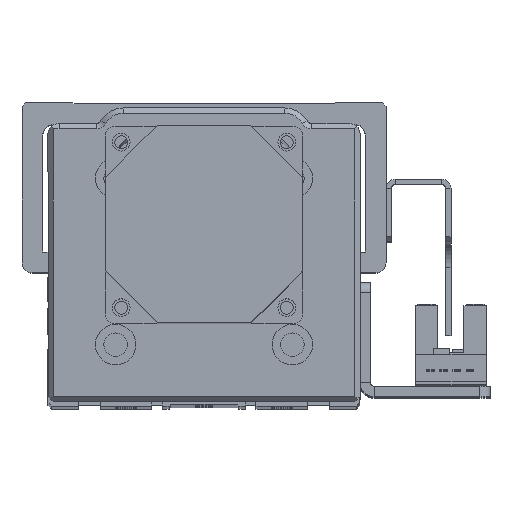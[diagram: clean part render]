
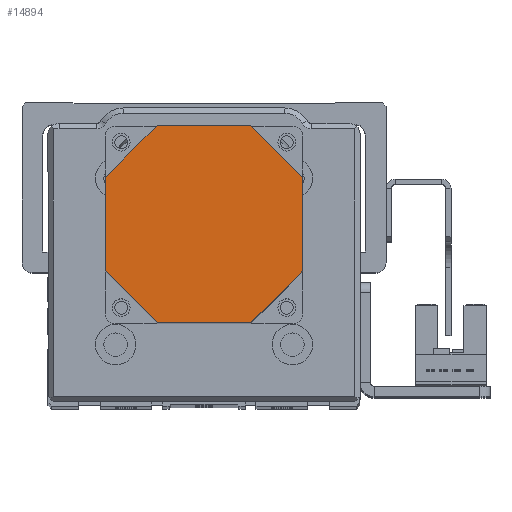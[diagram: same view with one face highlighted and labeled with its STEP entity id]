
A CAD part, top view. The second image highlights one B-rep face of the part: STEP entity #14894.
In plain terms, the highlighted planar face has unit normal (0, 0, 1) as drawn and (0, 0, -1) by its records, which use the part's own axes.
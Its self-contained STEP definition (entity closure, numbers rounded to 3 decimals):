
#5230 = EDGE_CURVE ( 'NONE', #24335, #24328, #7183, .T. ) ;
#5240 = EDGE_CURVE ( 'NONE', #24346, #24302, #7187, .T. ) ;
#5266 = EDGE_CURVE ( 'NONE', #24298, #24313, #7244, .T. ) ;
#5284 = EDGE_CURVE ( 'NONE', #24334, #24335, #7305, .T. ) ;
#5289 = EDGE_CURVE ( 'NONE', #24328, #24346, #7290, .T. ) ;
#5308 = EDGE_CURVE ( 'NONE', #24302, #24298, #7298, .T. ) ;
#5324 = EDGE_CURVE ( 'NONE', #24351, #24334, #7357, .T. ) ;
#5329 = EDGE_CURVE ( 'NONE', #24313, #24351, #7329, .T. ) ;
#7134 = VECTOR ( 'NONE', #11418, 1000. ) ;
#7183 = LINE ( 'NONE', #11443, #7134 ) ;
#7187 = LINE ( 'NONE', #10600, #7240 ) ;
#7240 = VECTOR ( 'NONE', #10596, 1000. ) ;
#7244 = LINE ( 'NONE', #10649, #7246 ) ;
#7246 = VECTOR ( 'NONE', #10674, 1000. ) ;
#7258 = VECTOR ( 'NONE', #10729, 1000. ) ;
#7261 = VECTOR ( 'NONE', #10702, 1000. ) ;
#7275 = VECTOR ( 'NONE', #10754, 1000. ) ;
#7290 = LINE ( 'NONE', #10713, #7261 ) ;
#7298 = LINE ( 'NONE', #10760, #7275 ) ;
#7305 = LINE ( 'NONE', #10720, #7258 ) ;
#7329 = LINE ( 'NONE', #10780, #7369 ) ;
#7330 = VECTOR ( 'NONE', #10787, 1000. ) ;
#7357 = LINE ( 'NONE', #10795, #7330 ) ;
#7369 = VECTOR ( 'NONE', #10829, 1000. ) ;
#9090 = PLANE ( 'NONE',  #9442 ) ;
#9195 = CARTESIAN_POINT ( 'NONE',  ( 0., 0., -84. ) ) ;
#9196 = DIRECTION ( 'NONE',  ( 0., 0., 1. ) ) ;
#9260 = DIRECTION ( 'NONE',  ( 1., 0., 0. ) ) ;
#9442 = AXIS2_PLACEMENT_3D ( 'NONE', #9195, #9196, #9260 ) ;
#10596 = DIRECTION ( 'NONE',  ( 1., 0., 0. ) ) ;
#10600 = CARTESIAN_POINT ( 'NONE',  ( 9., 19., -84. ) ) ;
#10649 = CARTESIAN_POINT ( 'NONE',  ( 19., 9., -84. ) ) ;
#10674 = DIRECTION ( 'NONE',  ( 0., -1., 0. ) ) ;
#10702 = DIRECTION ( 'NONE',  ( 0.707, 0.707, 0. ) ) ;
#10713 = CARTESIAN_POINT ( 'NONE',  ( -9., 19., -84. ) ) ;
#10720 = CARTESIAN_POINT ( 'NONE',  ( -9., -19., -84. ) ) ;
#10729 = DIRECTION ( 'NONE',  ( -0.707, 0.707, 0. ) ) ;
#10754 = DIRECTION ( 'NONE',  ( 0.707, -0.707, 0. ) ) ;
#10760 = CARTESIAN_POINT ( 'NONE',  ( 19., 9., -84. ) ) ;
#10780 = CARTESIAN_POINT ( 'NONE',  ( 19., -9., -84. ) ) ;
#10787 = DIRECTION ( 'NONE',  ( -1., 0., 0. ) ) ;
#10795 = CARTESIAN_POINT ( 'NONE',  ( 9., -19., -84. ) ) ;
#10829 = DIRECTION ( 'NONE',  ( -0.707, -0.707, 0. ) ) ;
#11418 = DIRECTION ( 'NONE',  ( 0., 1., 0. ) ) ;
#11443 = CARTESIAN_POINT ( 'NONE',  ( -19., 9., -84. ) ) ;
#11941 = EDGE_LOOP ( 'NONE', ( #23680, #23727, #23711, #23703, #23715, #23659, #23665, #23657 ) ) ;
#14894 = ADVANCED_FACE ( 'NONE', ( #15517 ), #9090, .F. ) ;
#15517 = FACE_OUTER_BOUND ( 'NONE', #11941, .T. ) ;
#22721 = CARTESIAN_POINT ( 'NONE',  ( 19., -9., -84. ) ) ;
#22738 = CARTESIAN_POINT ( 'NONE',  ( 9., 19., -84. ) ) ;
#22773 = CARTESIAN_POINT ( 'NONE',  ( 19., 9., -84. ) ) ;
#22832 = CARTESIAN_POINT ( 'NONE',  ( -9., 19., -84. ) ) ;
#22864 = CARTESIAN_POINT ( 'NONE',  ( -19., -9., -84. ) ) ;
#22866 = CARTESIAN_POINT ( 'NONE',  ( -19., 9., -84. ) ) ;
#22868 = CARTESIAN_POINT ( 'NONE',  ( 9., -19., -84. ) ) ;
#22910 = CARTESIAN_POINT ( 'NONE',  ( -9., -19., -84. ) ) ;
#23657 = ORIENTED_EDGE ( 'NONE', *, *, #5324, .T. ) ;
#23659 = ORIENTED_EDGE ( 'NONE', *, *, #5266, .T. ) ;
#23665 = ORIENTED_EDGE ( 'NONE', *, *, #5329, .T. ) ;
#23680 = ORIENTED_EDGE ( 'NONE', *, *, #5284, .T. ) ;
#23703 = ORIENTED_EDGE ( 'NONE', *, *, #5240, .T. ) ;
#23711 = ORIENTED_EDGE ( 'NONE', *, *, #5289, .T. ) ;
#23715 = ORIENTED_EDGE ( 'NONE', *, *, #5308, .T. ) ;
#23727 = ORIENTED_EDGE ( 'NONE', *, *, #5230, .T. ) ;
#24298 = VERTEX_POINT ( 'NONE', #22773 ) ;
#24302 = VERTEX_POINT ( 'NONE', #22738 ) ;
#24313 = VERTEX_POINT ( 'NONE', #22721 ) ;
#24328 = VERTEX_POINT ( 'NONE', #22866 ) ;
#24334 = VERTEX_POINT ( 'NONE', #22910 ) ;
#24335 = VERTEX_POINT ( 'NONE', #22864 ) ;
#24346 = VERTEX_POINT ( 'NONE', #22832 ) ;
#24351 = VERTEX_POINT ( 'NONE', #22868 ) ;
